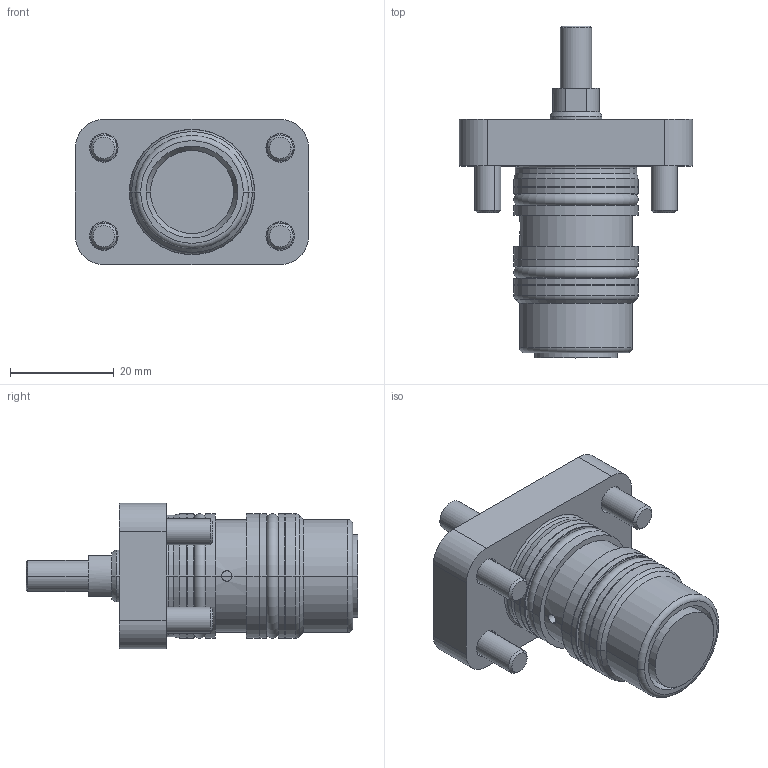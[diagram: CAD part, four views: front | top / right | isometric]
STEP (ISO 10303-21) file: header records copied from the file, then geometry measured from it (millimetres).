
FILE_DESCRIPTION (( 'STEP AP203' ), '1' );
FILE_NAME ('GERMA_Einbauzylinder_210-016-016-A.STEP', '2023-09-06T15:49:00', ( '' ), ( '' ), 'SwSTEP 2.0', 'SolidWorks 2016', '' );
FILE_SCHEMA (( 'CONFIG_CONTROL_DESIGN' ));
Length unit declared in the file: millimetre
Products named in the file (4): Gehaeuse 210-016_Gehaeuse 210-016-016; DIN7984-M5x14; Kolben 60x-016_Kolben DU.16-Hub16-AG; GERMA_Einbauzylinder_210-016-016-A
Assembly tree (6 placements, depth 2):
  GERMA_Einbauzylinder_210-016-016-A
    Gehaeuse 210-016_Gehaeuse 210-016-016
    Kolben 60x-016_Kolben DU.16-Hub16-AG
    DIN7984-M5x14  x4
Bounding box: 45 x 64 x 28 mm (x, y, z)
Volume: 25120.7 mm3; surface area: 13286.1 mm2
Topology: 6 solids, 6 shells, 368 faces, 879 edges, 551 vertices
Faces by surface type: plane 163, bspline 84, cylinder 71, cone 28, torus 22
Entity records: 12738 total; most frequent: CARTESIAN_POINT 5791, ORIENTED_EDGE 1406, DIRECTION 1188, EDGE_CURVE 703, VERTEX_POINT 452, AXIS2_PLACEMENT_3D 409, VECTOR 370, LINE 370
